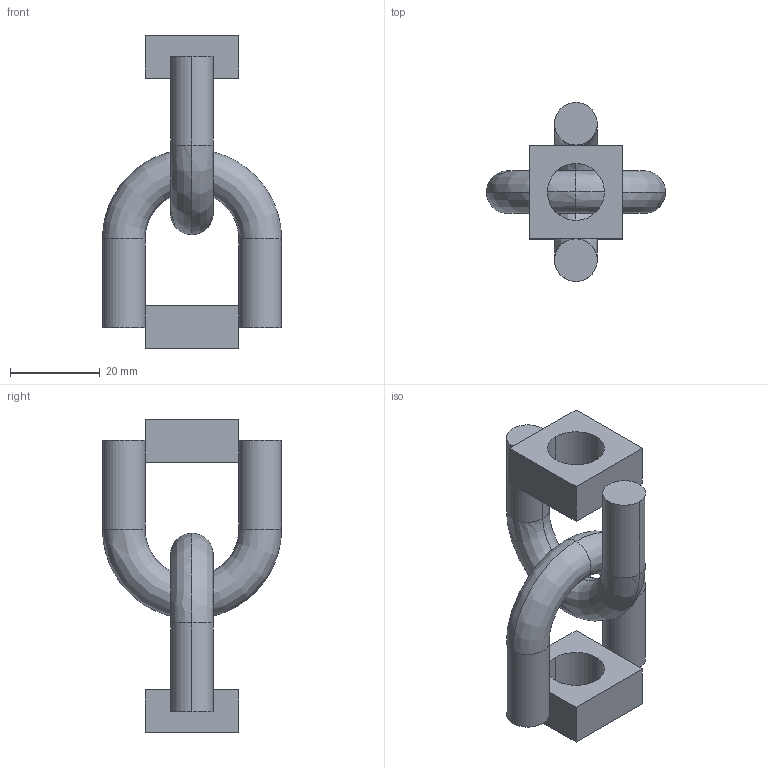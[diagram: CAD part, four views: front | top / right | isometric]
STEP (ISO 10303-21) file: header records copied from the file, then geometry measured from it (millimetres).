
FILE_DESCRIPTION(('TurboCAD Mac Pro'),'Build 980');
FILE_NAME('M2050.stp',' ',(''),(''),'ACIS Interop','IMSI','TurboCAD Mac Pro BY IMSI, INCORPORATED');
FILE_SCHEMA(('automotive_design'));
Length unit declared in the file: inch
Products named in the file (4): 1; 2; 3; 4
Bounding box: 39.98 x 39.98 x 69.88 mm (x, y, z)
Volume: 18388.1 mm3; surface area: 9120.6 mm2
Topology: 4 solids, 4 shells, 40 faces, 84 edges, 52 vertices
Faces by surface type: plane 16, bspline 16, cylinder 8
Entity records: 2041 total; most frequent: CARTESIAN_POINT 844, ORIENTED_EDGE 168, DIRECTION 136, EDGE_CURVE 84, VERTEX_POINT 52, AXIS2_PLACEMENT_3D 48, STYLED_ITEM 44, PRESENTATION_STYLE_ASSIGNMENT 44
